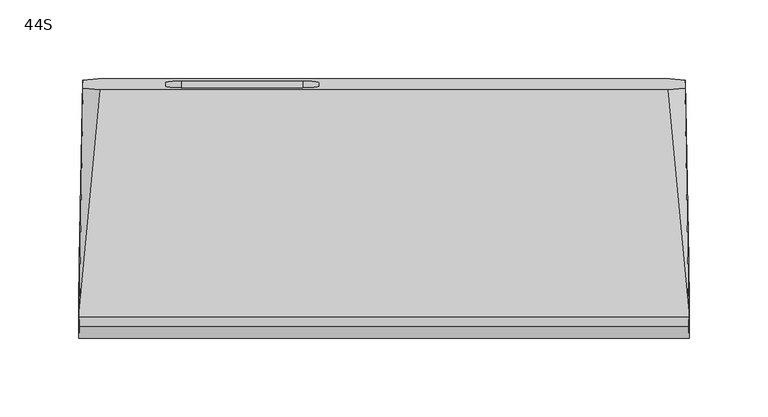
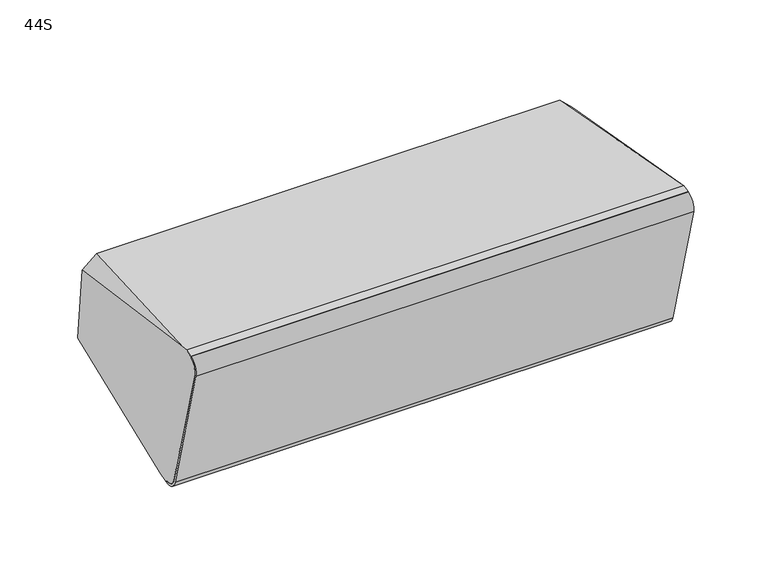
"""IFC4 building model written with IfcOpenShell, lengths in millimetres: proxy geometry, d&b xS-Series 44S Point Source : 44S."""

from ifc_helpers import new_model, si_unit, frame, origin, place, context, project, spatial, polyline, circle_curve, ellipse_curve, source, transform, mapped, element, save
from ifc_brep_helpers import plane_surface, cylinder_surface, revolved_surface, advanced_brep


def proxy_44s_84449b67(model_context):
    return source(origin(), model_context, "Body", "AdvancedBrep", [
        advanced_brep(
        [(-193.2924342, -47.1866856, -78.9013099), (-193.2924342, -47.6930588, -77.0114994), (-193.4294708, -57.4482683, -71.3793266), (-193.4294708, -85.4210241, 33.0164193), (-193.2918337, -79.7641699, 42.8143783), (-193.2918337, -80.281808, 44.7462299), (-193.1898069, -74.5536839, 46.2810761), (-193.132384, -71.0154389, 45.9718138), (-190.8800877, 70.5534468, 23.4352051), (-191.0574064, 75.7263535, -35.6913891), (-193.132384, -38.2009341, -76.493585), (193.2924342, -47.6930588, -77.0114994), (193.2924342, -47.1866856, -78.9013099), (193.132384, -38.2009341, -76.493585), (191.0574064, 75.7263535, -35.6913891), (190.8800877, 70.5534468, 23.4352051), (193.132384, -71.0154389, 45.9718138), (193.1898069, -74.5536839, 46.2810761), (193.2918337, -80.281808, 44.7462299), (193.2918337, -79.7641699, 42.8143783), (193.4294708, -85.4210241, 33.0164193), (193.4294708, -57.4482683, -71.3793266), (-181.3061997, 76.6047489, -45.7314949), (181.3061997, 76.6047489, -45.7314949), (179.9289467, 69.6574742, 33.6762184), (-179.9289467, 69.6574742, 33.6762184), (-138.5, 71.9980869, 6.9228928), (-138.5, 74.2641362, -18.9781693), (-128.5, 75.1356936, -28.9401163), (-51.5, 75.1356936, -28.9401163), (-41.5, 74.2641362, -18.9781693), (-41.5, 71.9980869, 6.9228928), (-51.5, 71.1265295, 16.8848398), (-128.5, 71.1265295, 16.8848398), (-138.5, 67.0171134, 6.4871141), (-128.5, 66.145556, 16.4490611), (-51.5, 66.145556, 16.4490611), (-41.5, 67.0171134, 6.4871141), (-41.5, 69.2831627, -19.4139481), (-51.5, 70.1547201, -29.375895), (-128.5, 70.1547201, -29.375895), (-138.5, 69.2831627, -19.4139481)],
        [
            (0, 1),
            (1, 2, ellipse_curve(frame((-193.2924342, -49.7545772, -69.3178082), z_axis=(-0.999852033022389, 0.016615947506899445, 0.004452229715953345), x_axis=(-0.017202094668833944, -0.9657829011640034, -0.25878074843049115)), 7.9662739, 7.9650952)),
            (2, 3),
            (3, 4, ellipse_curve(frame((-193.2918337, -77.6936175, 35.0869717), z_axis=(-0.999852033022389, 0.016615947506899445, 0.004452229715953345), x_axis=(-0.017202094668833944, -0.9657829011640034, -0.25878074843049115)), 8.0011839, 8.0)),
            (4, 5),
            (5, 6),
            (6, 7),
            (7, 8),
            (8, 9),
            (9, 10),
            (10, 0),
            (11, 12),
            (12, 13),
            (13, 14),
            (14, 15),
            (15, 16),
            (16, 17),
            (17, 18),
            (18, 19),
            (19, 20, ellipse_curve(frame((193.2918337, -77.6936175, 35.0869717), z_axis=(0.9998520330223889, 0.016615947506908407, 0.004452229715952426), x_axis=(-0.017202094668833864, 0.9657829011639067, 0.258780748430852)), 8.0011839, 8.0)),
            (20, 21),
            (21, 11, ellipse_curve(frame((193.2924342, -49.7545772, -69.3178082), z_axis=(0.9998520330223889, 0.016615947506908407, 0.004452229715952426), x_axis=(-0.017202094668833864, 0.9657829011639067, 0.258780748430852)), 7.9662739, 7.9650952)),
            (0, 12),
            (11, 1),
            (21, 2),
            (20, 3),
            (19, 4),
            (18, 5),
            (17, 6),
            (10, 22),
            (22, 23),
            (23, 13),
            (16, 24),
            (24, 25),
            (25, 7),
            (9, 22),
            (23, 14),
            (15, 24),
            (25, 8),
            (26, 27),
            (27, 28, circle_curve(frame((-128.5, 74.2641362, -18.9781693), z_axis=(0.0, -0.9961946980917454, -0.08715574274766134), x_axis=(0.0, -0.08715574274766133, 0.9961946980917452)), 10.0)),
            (28, 29),
            (29, 30, circle_curve(frame((-51.5, 74.2641362, -18.9781693), z_axis=(0.0, -0.9961946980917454, -0.08715574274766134), x_axis=(0.0, -0.08715574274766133, 0.9961946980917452)), 10.0)),
            (30, 31),
            (31, 32, circle_curve(frame((-51.5, 71.9980869, 6.9228928), z_axis=(0.0, -0.9961946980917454, -0.08715574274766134), x_axis=(0.0, -0.08715574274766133, 0.9961946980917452)), 10.0)),
            (32, 33),
            (33, 26, circle_curve(frame((-128.5, 71.9980869, 6.9228928), z_axis=(0.0, -0.9961946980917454, -0.08715574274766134), x_axis=(0.0, -0.08715574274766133, 0.9961946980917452)), 10.0)),
            (34, 35, circle_curve(frame((-128.5, 67.0171134, 6.4871141), z_axis=(0.0, 0.9961946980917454, 0.08715574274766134), x_axis=(0.0, -0.08715574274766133, 0.9961946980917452)), 10.0)),
            (35, 36),
            (36, 37, circle_curve(frame((-51.5, 67.0171134, 6.4871141), z_axis=(0.0, 0.9961946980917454, 0.08715574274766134), x_axis=(0.0, -0.08715574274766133, 0.9961946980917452)), 10.0)),
            (37, 38),
            (38, 39, circle_curve(frame((-51.5, 69.2831627, -19.4139481), z_axis=(0.0, 0.9961946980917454, 0.08715574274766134), x_axis=(0.0, -0.08715574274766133, 0.9961946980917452)), 10.0)),
            (39, 40),
            (40, 41, circle_curve(frame((-128.5, 69.2831627, -19.4139481), z_axis=(0.0, 0.9961946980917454, 0.08715574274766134), x_axis=(0.0, -0.08715574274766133, 0.9961946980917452)), 10.0)),
            (41, 34),
            (41, 27),
            (26, 34),
            (40, 28),
            (39, 29),
            (38, 30),
            (37, 31),
            (36, 32),
            (35, 33),
        ],
        [
            plane_surface(frame((-193.8309972, -119.8697317, 71.4086202), z_axis=(-0.999852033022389, 0.016615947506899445, 0.004452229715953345), x_axis=(0.0, 0.25881904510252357, -0.9659258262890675))),
            plane_surface(frame((190.7119283, 55.2451907, 118.3305223), z_axis=(0.9998520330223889, 0.016615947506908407, 0.004452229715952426), x_axis=(0.0, 0.25881904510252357, -0.9659258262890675))),
            plane_surface(frame((-207.1452552, -47.1866856, -78.9013099), z_axis=(0.0, -0.9659258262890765, -0.2588190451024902), x_axis=(1.0, 0.0, 0.0))),
            cylinder_surface(frame((207.1452552, -49.7545772, -69.3178082), z_axis=(-1.0, 0.0, 0.0), x_axis=(0.0, 0.25881904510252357, -0.9659258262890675)), 7.9650952),
            plane_surface(frame((-207.1452552, -57.4482683, -71.3793266), z_axis=(0.0, -0.9659258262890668, -0.2588190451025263), x_axis=(1.0, 0.0, 0.0))),
            cylinder_surface(frame((207.1452552, -77.6936175, 35.0869717), z_axis=(-1.0, 0.0, 0.0), x_axis=(0.0, 0.25881904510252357, -0.9659258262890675)), 8.0),
            plane_surface(frame((-207.1452552, -79.7641699, 42.8143783), z_axis=(0.0, -0.965925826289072, -0.25881904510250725), x_axis=(1.0, 0.0, 0.0))),
            plane_surface(frame((-207.1452552, -80.281808, 44.7462299), z_axis=(0.0, -0.25881904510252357, 0.9659258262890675), x_axis=(1.0, 0.0, 0.0))),
            plane_surface(frame((-207.1452552, -41.4248462, -77.3574296), z_axis=(0.0, 0.25881904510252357, -0.9659258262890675), x_axis=(1.0, 0.0, 0.0))),
            plane_surface(frame((0.0, 69.6574742, 33.6762184), z_axis=(0.0, 0.08707358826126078, 0.9962018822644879), x_axis=(-1.0, 0.0, 0.0))),
            plane_surface(frame((-186.6967137, 88.2231547, -35.6118446), z_axis=(-0.7053631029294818, 0.2503538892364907, -0.6631634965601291), x_axis=(0.7071067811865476, 0.18301270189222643, -0.6830127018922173))),
            plane_surface(frame((186.6967137, 88.2231547, -35.6118446), z_axis=(0.7053631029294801, 0.25035388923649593, -0.6631634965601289), x_axis=(0.7071067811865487, -0.1830127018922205, 0.6830127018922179))),
            plane_surface(frame((186.6967137, 71.4091012, 27.1390575), z_axis=(0.6719558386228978, 0.12684446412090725, 0.7296477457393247), x_axis=(-0.7071067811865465, -0.18301270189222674, 0.6830127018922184))),
            plane_surface(frame((-186.6967137, 71.4091012, 27.1390575), z_axis=(-0.6719558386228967, 0.1268444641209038, 0.7296477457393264), x_axis=(-0.7071067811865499, 0.18301270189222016, -0.6830127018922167))),
            plane_surface(frame((-250.0, 78.1321342, -63.1895889), z_axis=(0.0, 0.9961946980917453, 0.08715574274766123), x_axis=(1.0, 0.0, 0.0))),
            plane_surface(frame((-138.5, 71.6237754, -46.1672737), z_axis=(0.0, 0.9961946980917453, 0.08715574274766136), x_axis=(0.0, 0.08715574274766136, -0.9961946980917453))),
            plane_surface(frame((-138.5, 67.0171134, 6.4871141), z_axis=(1.0, 0.0, 0.0), x_axis=(0.0, 0.9961946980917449, 0.08715574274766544))),
            revolved_surface(polyline([(-128.5, 68.41160524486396, -9.452001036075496), (-128.5, 73.39257877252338, -9.01622231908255)]), (-128.5, 74.2641362, -18.9781693), (0.0, -0.9961946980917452, -0.08715574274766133)),
            plane_surface(frame((-128.5, 70.1547201, -29.375895), z_axis=(0.0, -0.08715574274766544, 0.9961946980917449), x_axis=(0.0, 0.9961946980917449, 0.08715574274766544))),
            revolved_surface(polyline([(-51.5, 68.41160524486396, -9.452001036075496), (-51.5, 73.39257877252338, -9.01622231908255)]), (-51.5, 74.2641362, -18.9781693), (0.0, -0.9961946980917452, -0.08715574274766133)),
            plane_surface(frame((-41.5, 69.2831627, -19.4139481), z_axis=(-1.0, 0.0, 0.0), x_axis=(0.0, 0.9961946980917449, 0.08715574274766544))),
            revolved_surface(polyline([(-51.5, 66.14555597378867, 16.44906106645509), (-51.5, 71.1265295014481, 16.884839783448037)]), (-51.5, 71.9980869, 6.9228928), (0.0, -0.9961946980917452, -0.08715574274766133)),
            plane_surface(frame((-51.5, 66.145556, 16.4490611), z_axis=(0.0, 0.08715574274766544, -0.9961946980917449), x_axis=(0.0, 0.9961946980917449, 0.08715574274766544))),
            revolved_surface(polyline([(-128.5, 66.14555597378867, 16.44906106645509), (-128.5, 71.1265295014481, 16.884839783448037)]), (-128.5, 71.9980869, 6.9228928), (0.0, -0.9961946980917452, -0.08715574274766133)),
        ],
        [
            (0, [[1, 2, 3, 4, 5, 6, 7, 8, 9, 10, 11]]),
            (1, [[12, 13, 14, 15, 16, 17, 18, 19, 20, 21, 22]]),
            (2, [[23, -12, 24, -1]]),
            (3, [[-24, -22, 25, -2]]),
            (4, [[-25, -21, 26, -3]]),
            (5, [[-26, -20, 27, -4]]),
            (6, [[-27, -19, 28, -5]]),
            (7, [[-28, -18, 29, -6]]),
            (8, [[-23, -11, 30, 31, 32, -13]]),
            (9, [[-29, -17, 33, 34, 35, -7]]),
            (10, [[-30, -10, 36]]),
            (11, [[-32, 37, -14]]),
            (12, [[-33, -16, 38]]),
            (13, [[-35, 39, -8]]),
            (14, [[-31, -36, -9, -39, -34, -38, -15, -37], [40, 41, 42, 43, 44, 45, 46, 47]]),
            (15, [[48, 49, 50, 51, 52, 53, 54, 55]]),
            (16, [[-55, 56, -40, 57]]),
            (17, [[-54, 58, -41, -56]]),
            (18, [[-53, 59, -42, -58]]),
            (19, [[-52, 60, -43, -59]]),
            (20, [[-51, 61, -44, -60]]),
            (21, [[-50, 62, -45, -61]]),
            (22, [[-49, 63, -46, -62]]),
            (23, [[-48, -57, -47, -63]]),
        ],
    ),
        advanced_brep(
        [(-193.4294708, -85.4210241, 33.0164193), (-193.4294708, -57.4482683, -71.3793266), (-193.2924342, -47.6930588, -77.0114994), (-193.2924342, -47.1866856, -78.9013099), (-193.4644806, -59.4341344, -71.830242), (-193.4644806, -87.3865912, 32.4897472), (-193.2918337, -80.290842, 44.7799454), (-193.2918337, -79.7641699, 42.8143783), (193.4294708, -57.4482683, -71.3793266), (193.4294708, -85.4210241, 33.0164193), (193.2918337, -79.7641699, 42.8143783), (193.2918337, -80.290842, 44.7799454), (193.4644806, -87.3865912, 32.4897472), (193.4644806, -59.4341344, -71.830242), (193.2924342, -47.1866856, -78.9013099), (193.2924342, -47.6930588, -77.0114994)],
        [
            (0, 1),
            (1, 2, ellipse_curve(frame((-193.2924342, -49.7545772, -69.3178082), z_axis=(0.999852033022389, -0.016615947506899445, -0.004452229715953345), x_axis=(0.017202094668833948, 0.9657829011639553, 0.25878074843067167)), 7.9662739, 7.9650952)),
            (2, 3),
            (3, 4, ellipse_curve(frame((-193.2924342, -49.7748761, -69.2420516), z_axis=(-0.999852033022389, 0.016615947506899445, 0.004452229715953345), x_axis=(-0.017202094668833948, -0.9657829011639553, -0.25878074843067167)), 10.0014799, 10.0)),
            (4, 5),
            (5, 6, ellipse_curve(frame((-193.2918337, -77.6936175, 35.0869717), z_axis=(-0.999852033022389, 0.016615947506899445, 0.004452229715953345), x_axis=(-0.017202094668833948, -0.9657829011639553, -0.25878074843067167)), 10.0363899, 10.0349048)),
            (6, 7),
            (7, 0, ellipse_curve(frame((-193.2918337, -77.6936175, 35.0869717), z_axis=(0.999852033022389, -0.016615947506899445, -0.004452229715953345), x_axis=(0.017202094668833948, 0.9657829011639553, 0.25878074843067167)), 8.0011839, 8.0)),
            (8, 9),
            (9, 10, ellipse_curve(frame((193.2918337, -77.6936175, 35.0869717), z_axis=(-0.9998520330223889, -0.016615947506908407, -0.004452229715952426), x_axis=(0.017202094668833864, -0.9657829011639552, -0.25878074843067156)), 8.0011839, 8.0)),
            (10, 11),
            (11, 12, ellipse_curve(frame((193.2918337, -77.6936175, 35.0869717), z_axis=(0.9998520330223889, 0.016615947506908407, 0.004452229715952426), x_axis=(-0.017202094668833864, 0.9657829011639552, 0.25878074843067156)), 10.0363899, 10.0349048)),
            (12, 13),
            (13, 14, ellipse_curve(frame((193.2924342, -49.7748761, -69.2420516), z_axis=(0.9998520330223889, 0.016615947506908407, 0.004452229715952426), x_axis=(-0.017202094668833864, 0.9657829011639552, 0.25878074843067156)), 10.0014799, 10.0)),
            (14, 15),
            (15, 8, ellipse_curve(frame((193.2924342, -49.7545772, -69.3178082), z_axis=(-0.9998520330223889, -0.016615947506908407, -0.004452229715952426), x_axis=(0.017202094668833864, -0.9657829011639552, -0.25878074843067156)), 7.9662739, 7.9650952)),
            (0, 9),
            (8, 1),
            (15, 2),
            (14, 3),
            (13, 4),
            (12, 5),
            (11, 6),
            (10, 7),
        ],
        [
            plane_surface(frame((-193.8309972, -119.8697317, 71.4086202), z_axis=(-0.999852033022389, 0.016615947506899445, 0.004452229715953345), x_axis=(0.0, 0.25881904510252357, -0.9659258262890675))),
            plane_surface(frame((190.7119283, 55.2451907, 118.3305223), z_axis=(0.9998520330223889, 0.016615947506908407, 0.004452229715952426), x_axis=(0.0, 0.25881904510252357, -0.9659258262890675))),
            plane_surface(frame((-202.5, -85.4210241, 33.0164193), z_axis=(0.0, 0.9659258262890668, 0.2588190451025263), x_axis=(1.0, 0.0, 0.0))),
            revolved_surface(polyline([(193.4294708, -51.816095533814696, -61.62411703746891), (-193.4294708, -51.816095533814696, -61.62411703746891)]), (202.5, -49.7545772, -69.3178082), (1.0, 0.0, 0.0)),
            plane_surface(frame((-202.5, -47.6930588, -77.0114994), z_axis=(0.0, 0.9659258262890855, 0.2588190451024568), x_axis=(1.0, 0.0, 0.0))),
            cylinder_surface(frame((202.5, -49.7748761, -69.2420516), z_axis=(-1.0, 0.0, 0.0), x_axis=(0.0, -0.25881904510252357, 0.9659258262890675)), 10.0),
            plane_surface(frame((-202.5, -59.4341344, -71.830242), z_axis=(0.0, -0.9659258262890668, -0.2588190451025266), x_axis=(1.0, 0.0, 0.0))),
            cylinder_surface(frame((202.5, -77.6936175, 35.0869717), z_axis=(-1.0, 0.0, 0.0), x_axis=(0.0, -0.25881904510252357, 0.9659258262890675)), 10.0349048),
            plane_surface(frame((-202.5, -80.290842, 44.7799454), z_axis=(0.0, 0.965925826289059, 0.25881904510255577), x_axis=(1.0, 0.0, 0.0))),
            revolved_surface(polyline([(193.42947082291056, -79.76416986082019, 42.81437831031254), (-193.42947082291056, -79.76416986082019, 42.81437831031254)]), (202.5, -77.6936175, 35.0869717), (1.0, 0.0, 0.0)),
        ],
        [
            (0, [[1, 2, 3, 4, 5, 6, 7, 8]]),
            (1, [[9, 10, 11, 12, 13, 14, 15, 16]]),
            (2, [[17, -9, 18, -1]]),
            (3, [[-18, -16, 19, -2]]),
            (4, [[-19, -15, 20, -3]]),
            (5, [[-20, -14, 21, -4]]),
            (6, [[-21, -13, 22, -5]]),
            (7, [[-22, -12, 23, -6]]),
            (8, [[-23, -11, 24, -7]]),
            (9, [[-17, -8, -24, -10]]),
        ],
    ),
        advanced_brep(
        [(-193.4294708, -85.4210241, 33.0164193), (-193.4294708, -57.4482683, -71.3793266), (-193.2924342, -47.6930588, -77.0114994), (-193.2924342, -47.1866856, -78.9013099), (-193.4644806, -59.4341344, -71.830242), (-193.4644806, -87.3865912, 32.4897472), (-193.2918337, -80.290842, 44.7799454), (-193.2918337, -79.7641699, 42.8143783), (193.4294708, -57.4482683, -71.3793266), (193.4294708, -85.4210241, 33.0164193), (193.2918337, -79.7641699, 42.8143783), (193.2918337, -80.290842, 44.7799454), (193.4644806, -87.3865912, 32.4897472), (193.4644806, -59.4341344, -71.830242), (193.2924342, -47.1866856, -78.9013099), (193.2924342, -47.6930588, -77.0114994)],
        [
            (0, 1),
            (1, 2, ellipse_curve(frame((-193.2924342, -49.7545772, -69.3178082), z_axis=(0.999852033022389, -0.016615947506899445, -0.004452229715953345), x_axis=(0.017202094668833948, 0.9657829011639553, 0.25878074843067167)), 7.9662739, 7.9650952)),
            (2, 3),
            (3, 4, ellipse_curve(frame((-193.2924342, -49.7748761, -69.2420516), z_axis=(-0.999852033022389, 0.016615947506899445, 0.004452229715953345), x_axis=(-0.017202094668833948, -0.9657829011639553, -0.25878074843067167)), 10.0014799, 10.0)),
            (4, 5),
            (5, 6, ellipse_curve(frame((-193.2918337, -77.6936175, 35.0869717), z_axis=(-0.999852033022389, 0.016615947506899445, 0.004452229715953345), x_axis=(-0.017202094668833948, -0.9657829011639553, -0.25878074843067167)), 10.0363899, 10.0349048)),
            (6, 7),
            (7, 0, ellipse_curve(frame((-193.2918337, -77.6936175, 35.0869717), z_axis=(0.999852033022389, -0.016615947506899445, -0.004452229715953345), x_axis=(0.017202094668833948, 0.9657829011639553, 0.25878074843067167)), 8.0011839, 8.0)),
            (8, 9),
            (9, 10, ellipse_curve(frame((193.2918337, -77.6936175, 35.0869717), z_axis=(-0.9998520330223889, -0.016615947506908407, -0.004452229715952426), x_axis=(0.017202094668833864, -0.9657829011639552, -0.25878074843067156)), 8.0011839, 8.0)),
            (10, 11),
            (11, 12, ellipse_curve(frame((193.2918337, -77.6936175, 35.0869717), z_axis=(0.9998520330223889, 0.016615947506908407, 0.004452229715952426), x_axis=(-0.017202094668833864, 0.9657829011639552, 0.25878074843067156)), 10.0363899, 10.0349048)),
            (12, 13),
            (13, 14, ellipse_curve(frame((193.2924342, -49.7748761, -69.2420516), z_axis=(0.9998520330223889, 0.016615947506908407, 0.004452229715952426), x_axis=(-0.017202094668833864, 0.9657829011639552, 0.25878074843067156)), 10.0014799, 10.0)),
            (14, 15),
            (15, 8, ellipse_curve(frame((193.2924342, -49.7545772, -69.3178082), z_axis=(-0.9998520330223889, -0.016615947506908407, -0.004452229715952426), x_axis=(0.017202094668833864, -0.9657829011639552, -0.25878074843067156)), 7.9662739, 7.9650952)),
            (0, 9),
            (8, 1),
            (15, 2),
            (14, 3),
            (13, 4),
            (12, 5),
            (11, 6),
            (10, 7),
        ],
        [
            plane_surface(frame((-193.8309972, -119.8697317, 71.4086202), z_axis=(-0.999852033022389, 0.016615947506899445, 0.004452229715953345), x_axis=(0.0, 0.25881904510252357, -0.9659258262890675))),
            plane_surface(frame((190.7119283, 55.2451907, 118.3305223), z_axis=(0.9998520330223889, 0.016615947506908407, 0.004452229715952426), x_axis=(0.0, 0.25881904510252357, -0.9659258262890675))),
            plane_surface(frame((-202.5, -85.4210241, 33.0164193), z_axis=(0.0, 0.9659258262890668, 0.2588190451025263), x_axis=(1.0, 0.0, 0.0))),
            revolved_surface(polyline([(193.4294708, -51.816095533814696, -61.62411703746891), (-193.4294708, -51.816095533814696, -61.62411703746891)]), (202.5, -49.7545772, -69.3178082), (1.0, 0.0, 0.0)),
            plane_surface(frame((-202.5, -47.6930588, -77.0114994), z_axis=(0.0, 0.9659258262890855, 0.2588190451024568), x_axis=(1.0, 0.0, 0.0))),
            cylinder_surface(frame((202.5, -49.7748761, -69.2420516), z_axis=(-1.0, 0.0, 0.0), x_axis=(0.0, -0.25881904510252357, 0.9659258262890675)), 10.0),
            plane_surface(frame((-202.5, -59.4341344, -71.830242), z_axis=(0.0, -0.9659258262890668, -0.2588190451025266), x_axis=(1.0, 0.0, 0.0))),
            cylinder_surface(frame((202.5, -77.6936175, 35.0869717), z_axis=(-1.0, 0.0, 0.0), x_axis=(0.0, -0.25881904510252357, 0.9659258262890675)), 10.0349048),
            plane_surface(frame((-202.5, -80.290842, 44.7799454), z_axis=(0.0, 0.965925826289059, 0.25881904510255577), x_axis=(1.0, 0.0, 0.0))),
            revolved_surface(polyline([(193.42947082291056, -79.76416986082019, 42.81437831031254), (-193.42947082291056, -79.76416986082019, 42.81437831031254)]), (202.5, -77.6936175, 35.0869717), (1.0, 0.0, 0.0)),
        ],
        [
            (0, [[1, 2, 3, 4, 5, 6, 7, 8]]),
            (1, [[9, 10, 11, 12, 13, 14, 15, 16]]),
            (2, [[17, -9, 18, -1]]),
            (3, [[-18, -16, 19, -2]]),
            (4, [[-19, -15, 20, -3]]),
            (5, [[-20, -14, 21, -4]]),
            (6, [[-21, -13, 22, -5]]),
            (7, [[-22, -12, 23, -6]]),
            (8, [[-23, -11, 24, -7]]),
            (9, [[-17, -8, -24, -10]]),
        ],
    ),
    ])


if __name__ == "__main__":
    model = new_model("IFC4")
    model_context = context("Model", 3, world=origin())
    ifc_project = project(units=[si_unit("LENGTHUNIT", "METRE", prefix="MILLI")], contexts=[model_context])
    site = spatial("IfcSite", under=ifc_project)
    building = spatial("IfcBuilding", under=site)
    placement = place(None, origin())
    proxy_44s_shape = proxy_44s_84449b67(model_context)
    element("IfcBuildingElementProxy", 1, Name="d&b xS-Series 44S Point Source : 44S", ObjectType="d&b xS-Series 44S Point Source : 44S", at=placement, inside=building, context=model_context, shape_type="MappedRepresentation", body=[
        mapped(proxy_44s_shape, transform((0.0, 0.0, 0.0), x_axis=(1.0, 0.0, 0.0), y_axis=(0.0, 1.0, 0.0), z_axis=(0.0, 0.0, 1.0))),
    ])
    save(model, "model.ifc")
